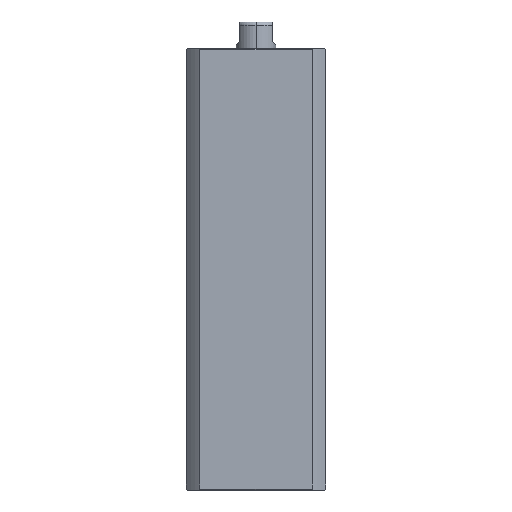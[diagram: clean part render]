
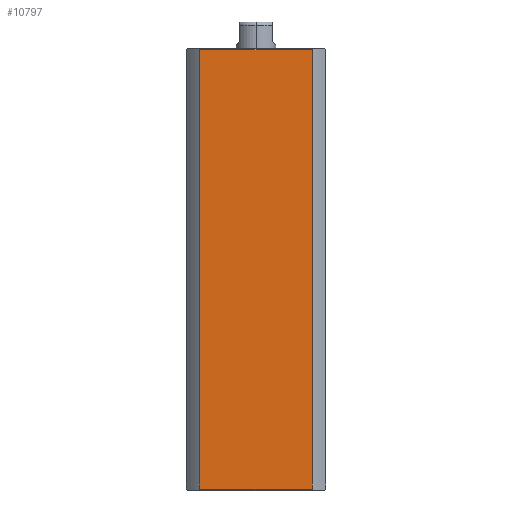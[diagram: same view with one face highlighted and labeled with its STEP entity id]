
A CAD part, left-side view. The second image highlights one B-rep face of the part: STEP entity #10797.
In plain terms, the highlighted planar face has unit normal (-1, 0, 0).
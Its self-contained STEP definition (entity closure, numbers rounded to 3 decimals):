
#51 = VECTOR ( 'NONE', #10469, 1000. ) ;
#1311 = PLANE ( 'NONE',  #7785 ) ;
#1601 = EDGE_CURVE ( 'NONE', #5643, #11193, #9505, .T. ) ;
#1625 = EDGE_CURVE ( 'NONE', #5643, #6275, #10116, .T. ) ;
#2173 = DIRECTION ( 'NONE',  ( 0., 1., 0. ) ) ;
#2374 = ORIENTED_EDGE ( 'NONE', *, *, #1601, .F. ) ;
#2652 = ORIENTED_EDGE ( 'NONE', *, *, #9520, .T. ) ;
#2928 = CARTESIAN_POINT ( 'NONE',  ( -21., 21., 132.7 ) ) ;
#3085 = VECTOR ( 'NONE', #10106, 1000. ) ;
#3759 = CARTESIAN_POINT ( 'NONE',  ( -21., -16.971, 132.7 ) ) ;
#3765 = CARTESIAN_POINT ( 'NONE',  ( -21., -16.971, -167. ) ) ;
#3827 = VERTEX_POINT ( 'NONE', #3759 ) ;
#3877 = CARTESIAN_POINT ( 'NONE',  ( -21., 21., 0.3 ) ) ;
#4736 = ORIENTED_EDGE ( 'NONE', *, *, #1625, .T. ) ;
#4767 = VECTOR ( 'NONE', #10611, 1000. ) ;
#4798 = EDGE_LOOP ( 'NONE', ( #2374, #4736, #7132, #2652 ) ) ;
#5299 = VECTOR ( 'NONE', #10021, 1000. ) ;
#5643 = VERTEX_POINT ( 'NONE', #5964 ) ;
#5717 = CARTESIAN_POINT ( 'NONE',  ( -21., 21., 133. ) ) ;
#5964 = CARTESIAN_POINT ( 'NONE',  ( -21., 16.971, 0.3 ) ) ;
#6156 = EDGE_CURVE ( 'NONE', #3827, #6275, #7684, .T. ) ;
#6248 = FACE_OUTER_BOUND ( 'NONE', #4798, .T. ) ;
#6275 = VERTEX_POINT ( 'NONE', #11101 ) ;
#7132 = ORIENTED_EDGE ( 'NONE', *, *, #6156, .F. ) ;
#7494 = DIRECTION ( 'NONE',  ( 1., 0., 0. ) ) ;
#7511 = CARTESIAN_POINT ( 'NONE',  ( -21., 16.971, 132.7 ) ) ;
#7684 = LINE ( 'NONE', #3765, #5299 ) ;
#7785 = AXIS2_PLACEMENT_3D ( 'NONE', #5717, #7494, #2173 ) ;
#8383 = LINE ( 'NONE', #2928, #3085 ) ;
#8615 = CARTESIAN_POINT ( 'NONE',  ( -21., 16.971, -167. ) ) ;
#9505 = LINE ( 'NONE', #8615, #4767 ) ;
#9520 = EDGE_CURVE ( 'NONE', #3827, #11193, #8383, .T. ) ;
#10021 = DIRECTION ( 'NONE',  ( 0., 0., -1. ) ) ;
#10106 = DIRECTION ( 'NONE',  ( 0., 1., 0. ) ) ;
#10116 = LINE ( 'NONE', #3877, #51 ) ;
#10469 = DIRECTION ( 'NONE',  ( 0., -1., 0. ) ) ;
#10611 = DIRECTION ( 'NONE',  ( 0., 0., 1. ) ) ;
#10797 = ADVANCED_FACE ( 'NONE', ( #6248 ), #1311, .F. ) ;
#11101 = CARTESIAN_POINT ( 'NONE',  ( -21., -16.971, 0.3 ) ) ;
#11193 = VERTEX_POINT ( 'NONE', #7511 ) ;
